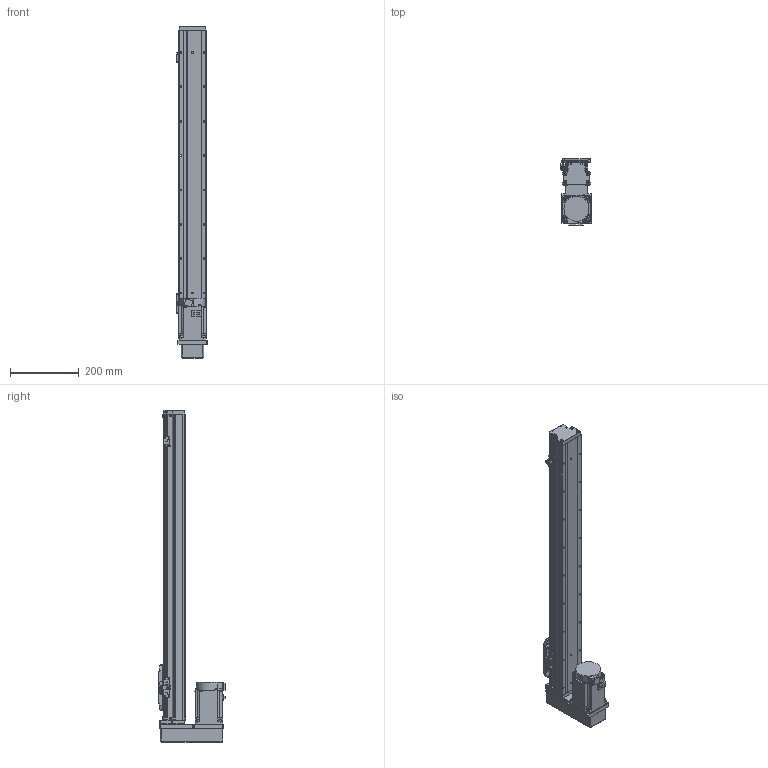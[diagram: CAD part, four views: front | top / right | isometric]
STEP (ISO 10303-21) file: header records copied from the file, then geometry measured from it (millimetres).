
FILE_DESCRIPTION (( 'STEP AP203' ), '1' );
FILE_NAME ('GTH8-700-BM-M75-C4.step', '2023-02-14T02:29:34', ( '微软用户' ), ( '微软中国' ), 'SwSTEP 2.0', 'SolidWorks 2020', '' );
FILE_SCHEMA (( 'CONFIG_CONTROL_DESIGN' ));
Length unit declared in the file: millimetre
Products named in the file (18): GBT 70.1-M3℅6; CTHA86-015-3_CTHA86-015-4; GTH80-003; GBT 70.1-M4×16; CTHA86-035; GTH80-004; GTH80-028; hg-kn73j_-s100; GTH80-006; GTH50-024; GTH8-700-BM-M75-C4; GTH80-013; GTH50-023; GBT 70.3-M3℅6; GBT96.1-2002 3×0.8; GTH80-022; BTH-M3X5X6; GTH80-001_700
Assembly tree (57 placements, depth 2):
  GTH8-700-BM-M75-C4
    GTH80-001_700
    GTH80-003
    GTH80-004
    GTH80-006
    GTH80-013
    GBT 70.3-M3℅6  x4
    GTH80-022
    GBT 70.1-M3℅6  x14
    GBT 70.1-M4×16  x8
    GTH80-028  x2
    GTH50-024  x3
    GTH50-023  x3
    GBT96.1-2002 3×0.8  x6
    BTH-M3X5X6  x8
    CTHA86-015-3_CTHA86-015-4
    CTHA86-035
    hg-kn73j_-s100
Bounding box: 89.4 x 195.3 x 966 mm (x, y, z)
Volume: 5399424.5 mm3; surface area: 538961.9 mm2
Topology: 59 solids, 59 shells, 2199 faces, 5106 edges, 3128 vertices
Faces by surface type: plane 1153, cylinder 631, cone 243, torus 158, sphere 12, bspline 2
Entity records: 39736 total; most frequent: CARTESIAN_POINT 6671, DIRECTION 6557, ORIENTED_EDGE 6022, EDGE_CURVE 3011, AXIS2_PLACEMENT_3D 2314, LINE 1929, VECTOR 1929, VERTEX_POINT 1903
